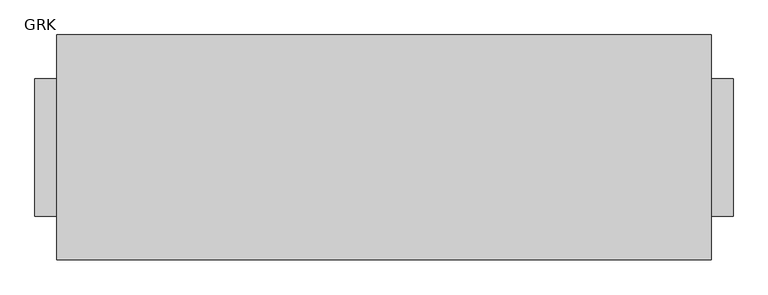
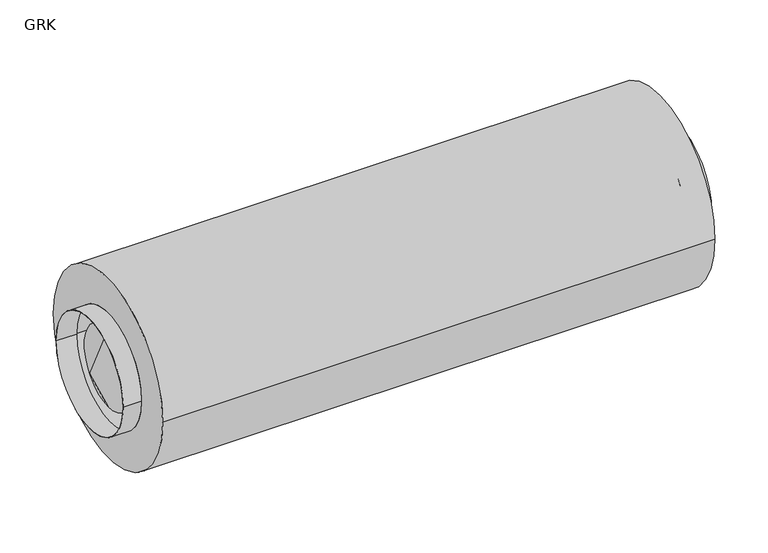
"""IFC4 building model written with IfcOpenShell, lengths in millimetres: damper geometry, DUA_UN_Round sound attenuator_SMA : GRK."""

from ifc_helpers import new_model, si_unit, frame, origin, place, context, project, spatial, polyline, circle_curve, source, transform, mapped, element, save
from ifc_brep_helpers import plane_surface, cylinder_surface, revolved_surface, advanced_brep


def grk_93a78ed1(model_context):
    return source(origin(), model_context, "Body", "AdvancedBrep", [
        advanced_brep(
        [(800.0, 0.0, 0.0), (750.0, 0.0, 111.369318), (750.0, 0.0, -111.369318), (-750.0, 0.0, -111.369318), (-750.0, 0.0, 111.369318), (-800.0, 0.0, 0.0)],
        [
            (0, 1),
            (1, 2, circle_curve(frame((750.0, 0.0, 0.0), z_axis=(1.0, 0.0, 0.0), x_axis=(0.0, 0.0, 1.0)), 111.369318)),
            (2, 0),
            (2, 1, circle_curve(frame((750.0, 0.0, 0.0), z_axis=(1.0, 0.0, 0.0), x_axis=(0.0, 0.0, 1.0)), 111.369318)),
            (3, 4, circle_curve(frame((-750.0, 0.0, 0.0), z_axis=(-1.0, 0.0, 0.0), x_axis=(0.0, 0.0, 1.0)), 111.369318)),
            (4, 5),
            (5, 3),
            (4, 3, circle_curve(frame((-750.0, 0.0, 0.0), z_axis=(-1.0, 0.0, 0.0), x_axis=(0.0, 0.0, 1.0)), 111.369318)),
            (1, 4),
            (3, 2),
        ],
        [
            revolved_surface(polyline([(750.0, 0.0, 111.369318), (800.0, 0.0, 0.0)]), (0.0, 0.0, 0.0), (1.0, 0.0, 0.0)),
            revolved_surface(polyline([(-800.0, 0.0, 0.0), (-750.0, 0.0, 111.369318)]), (0.0, 0.0, 0.0), (1.0, 0.0, 0.0)),
            cylinder_surface(frame((0.0, 0.0, 0.0), z_axis=(1.0, 0.0, 0.0), x_axis=(0.0, 0.0, 1.0)), 111.369318),
        ],
        [
            (0, [[1, 2, 3]]),
            (0, [[-3, 4, -1]]),
            (1, [[5, 6, 7]]),
            (1, [[8, -7, -6]]),
            (2, [[-2, 9, -5, 10]]),
            (2, [[-4, -10, -8, -9]]),
        ],
    ),
        advanced_brep(
        [(745.0, 156.5, 0.0), (745.0, -156.5, 0.0), (800.0, -156.5, 0.0), (800.0, 156.5, 0.0), (-745.0, 157.5, 0.0), (-745.0, -157.5, 0.0), (745.0, -157.5, 0.0), (745.0, 157.5, 0.0), (-800.0, 156.5, 0.0), (-800.0, -156.5, 0.0), (-745.0, -156.5, 0.0), (-745.0, 156.5, 0.0), (-750.0, 157.5, 0.0), (-750.0, -157.5, 0.0), (-800.0, -157.5, 0.0), (-800.0, 157.5, 0.0), (750.0, 257.5, 0.0), (750.0, -257.5, 0.0), (-750.0, -257.5, 0.0), (-750.0, 257.5, 0.0), (800.0, 157.5, 0.0), (800.0, -157.5, 0.0), (750.0, -157.5, 0.0), (750.0, 157.5, 0.0)],
        [
            (0, 1, circle_curve(frame((745.0, 0.0, 0.0), z_axis=(-1.0, 0.0, 0.0), x_axis=(0.0, -1.0, 0.0)), 156.5)),
            (1, 2),
            (2, 3, circle_curve(frame((800.0, 0.0, 0.0), z_axis=(1.0, 0.0, 0.0), x_axis=(0.0, -1.0, 0.0)), 156.5)),
            (3, 0),
            (4, 5, circle_curve(frame((-745.0, 0.0, 0.0), z_axis=(-1.0, 0.0, 0.0), x_axis=(0.0, -1.0, 0.0)), 157.5)),
            (5, 6),
            (6, 7, circle_curve(frame((745.0, 0.0, 0.0), z_axis=(1.0, 0.0, 0.0), x_axis=(0.0, -1.0, 0.0)), 157.5)),
            (7, 4),
            (8, 9, circle_curve(frame((-800.0, 0.0, 0.0), z_axis=(-1.0, 0.0, 0.0), x_axis=(0.0, -1.0, 0.0)), 156.5)),
            (9, 10),
            (10, 11, circle_curve(frame((-745.0, 0.0, 0.0), z_axis=(1.0, 0.0, 0.0), x_axis=(0.0, -1.0, 0.0)), 156.5)),
            (11, 8),
            (12, 13, circle_curve(frame((-750.0, 0.0, 0.0), z_axis=(-1.0, 0.0, 0.0), x_axis=(0.0, -1.0, 0.0)), 157.5)),
            (13, 14),
            (14, 15, circle_curve(frame((-800.0, 0.0, 0.0), z_axis=(1.0, 0.0, 0.0), x_axis=(0.0, -1.0, 0.0)), 157.5)),
            (15, 12),
            (16, 17, circle_curve(frame((750.0, 0.0, 0.0), z_axis=(-1.0, 0.0, 0.0), x_axis=(0.0, -1.0, 0.0)), 257.5)),
            (17, 18),
            (18, 19, circle_curve(frame((-750.0, 0.0, 0.0), z_axis=(1.0, 0.0, 0.0), x_axis=(0.0, -1.0, 0.0)), 257.5)),
            (19, 16),
            (20, 21, circle_curve(frame((800.0, 0.0, 0.0), z_axis=(-1.0, 0.0, 0.0), x_axis=(0.0, -1.0, 0.0)), 157.5)),
            (21, 22),
            (22, 23, circle_curve(frame((750.0, 0.0, 0.0), z_axis=(1.0, 0.0, 0.0), x_axis=(0.0, -1.0, 0.0)), 157.5)),
            (23, 20),
            (1, 0, circle_curve(frame((745.0, 0.0, 0.0), z_axis=(-1.0, 0.0, 0.0), x_axis=(0.0, 1.0, 0.0)), 156.5)),
            (3, 2, circle_curve(frame((800.0, 0.0, 0.0), z_axis=(1.0, 0.0, 0.0), x_axis=(0.0, 1.0, 0.0)), 156.5)),
            (6, 7, circle_curve(frame((745.0, 0.0, 0.0), z_axis=(-1.0, 0.0, 0.0), x_axis=(0.0, 1.0, 0.0)), 157.5)),
            (5, 4, circle_curve(frame((-745.0, 0.0, 0.0), z_axis=(-1.0, 0.0, 0.0), x_axis=(0.0, 1.0, 0.0)), 157.5)),
            (10, 11, circle_curve(frame((-745.0, 0.0, 0.0), z_axis=(-1.0, 0.0, 0.0), x_axis=(0.0, 1.0, 0.0)), 156.5)),
            (9, 8, circle_curve(frame((-800.0, 0.0, 0.0), z_axis=(-1.0, 0.0, 0.0), x_axis=(0.0, 1.0, 0.0)), 156.5)),
            (14, 15, circle_curve(frame((-800.0, 0.0, 0.0), z_axis=(-1.0, 0.0, 0.0), x_axis=(0.0, 1.0, 0.0)), 157.5)),
            (13, 12, circle_curve(frame((-750.0, 0.0, 0.0), z_axis=(-1.0, 0.0, 0.0), x_axis=(0.0, 1.0, 0.0)), 157.5)),
            (18, 19, circle_curve(frame((-750.0, 0.0, 0.0), z_axis=(-1.0, 0.0, 0.0), x_axis=(0.0, 1.0, 0.0)), 257.5)),
            (17, 16, circle_curve(frame((750.0, 0.0, 0.0), z_axis=(-1.0, 0.0, 0.0), x_axis=(0.0, 1.0, 0.0)), 257.5)),
            (22, 23, circle_curve(frame((750.0, 0.0, 0.0), z_axis=(-1.0, 0.0, 0.0), x_axis=(0.0, 1.0, 0.0)), 157.5)),
            (21, 20, circle_curve(frame((800.0, 0.0, 0.0), z_axis=(-1.0, 0.0, 0.0), x_axis=(0.0, 1.0, 0.0)), 157.5)),
        ],
        [
            revolved_surface(polyline([(800.0, -156.5, 0.0), (745.0, -156.5, 0.0)]), (0.0, 0.0, 0.0), (1.0, 0.0, 0.0)),
            revolved_surface(polyline([(745.0, -157.5, 0.0), (-745.0, -157.5, 0.0)]), (0.0, 0.0, 0.0), (1.0, 0.0, 0.0)),
            revolved_surface(polyline([(-745.0, -156.5, 0.0), (-800.0, -156.5, 0.0)]), (0.0, 0.0, 0.0), (1.0, 0.0, 0.0)),
            cylinder_surface(frame((0.0, 0.0, 0.0), z_axis=(1.0, 0.0, 0.0), x_axis=(0.0, -1.0, 0.0)), 157.5),
            cylinder_surface(frame((0.0, 0.0, 0.0), z_axis=(1.0, 0.0, 0.0), x_axis=(0.0, -1.0, 0.0)), 257.5),
            revolved_surface(polyline([(800.0, 156.5, 0.0), (745.0, 156.5, 0.0)]), (0.0, 0.0, 0.0), (1.0, 0.0, 0.0)),
            plane_surface(frame((745.0, 0.0, 0.0), z_axis=(-1.0, 0.0, 0.0), x_axis=(0.0, 1.0, 0.0))),
            revolved_surface(polyline([(745.0, 157.5, 0.0), (-745.0, 157.5, 0.0)]), (0.0, 0.0, 0.0), (1.0, 0.0, 0.0)),
            plane_surface(frame((-745.0, 0.0, 0.0), z_axis=(1.0, 0.0, 0.0), x_axis=(0.0, 1.0, 0.0))),
            revolved_surface(polyline([(-745.0, 156.5, 0.0), (-800.0, 156.5, 0.0)]), (0.0, 0.0, 0.0), (1.0, 0.0, 0.0)),
            plane_surface(frame((-800.0, 0.0, 0.0), z_axis=(-1.0, 0.0, 0.0), x_axis=(0.0, 1.0, 0.0))),
            cylinder_surface(frame((0.0, 0.0, 0.0), z_axis=(1.0, 0.0, 0.0), x_axis=(0.0, 1.0, 0.0)), 157.5),
            plane_surface(frame((-750.0, 0.0, 0.0), z_axis=(-1.0, 0.0, 0.0), x_axis=(0.0, 1.0, 0.0))),
            cylinder_surface(frame((0.0, 0.0, 0.0), z_axis=(1.0, 0.0, 0.0), x_axis=(0.0, 1.0, 0.0)), 257.5),
            plane_surface(frame((750.0, 0.0, 0.0), z_axis=(1.0, 0.0, 0.0), x_axis=(0.0, 1.0, 0.0))),
            plane_surface(frame((800.0, 0.0, 0.0), z_axis=(1.0, 0.0, 0.0), x_axis=(0.0, 1.0, 0.0))),
        ],
        [
            (0, [[1, 2, 3, 4]]),
            (1, [[5, 6, 7, 8]]),
            (2, [[9, 10, 11, 12]]),
            (3, [[13, 14, 15, 16]]),
            (4, [[17, 18, 19, 20]]),
            (3, [[21, 22, 23, 24]]),
            (5, [[25, -4, 26, -2]]),
            (6, [[27, -7], [-25, -1]]),
            (7, [[28, -8, -27, -6]]),
            (8, [[-28, -5], [29, -11]]),
            (9, [[30, -12, -29, -10]]),
            (10, [[31, -15], [-30, -9]]),
            (11, [[32, -16, -31, -14]]),
            (12, [[33, -19], [-32, -13]]),
            (13, [[34, -20, -33, -18]]),
            (14, [[-34, -17], [35, -23]]),
            (11, [[36, -24, -35, -22]]),
            (15, [[-36, -21], [-26, -3]]),
        ],
    ),
    ])


if __name__ == "__main__":
    model = new_model("IFC4")
    model_context = context("Model", 3, world=origin())
    ifc_project = project(units=[si_unit("LENGTHUNIT", "METRE", prefix="MILLI")], contexts=[model_context])
    site = spatial("IfcSite", under=ifc_project)
    building = spatial("IfcBuilding", under=site)
    placement = place(None, origin())
    grk_shape = grk_93a78ed1(model_context)
    element("IfcDamper", 1, ObjectType="DUA_UN_Round sound attenuator_SMA : GRK", at=placement, inside=building, context=model_context, shape_type="MappedRepresentation", body=[
        mapped(grk_shape, transform((0.0, 0.0, 0.0), x_axis=(1.0, 0.0, 0.0), y_axis=(0.0, 1.0, 0.0), z_axis=(0.0, 0.0, 1.0))),
    ])
    save(model, "model.ifc")
